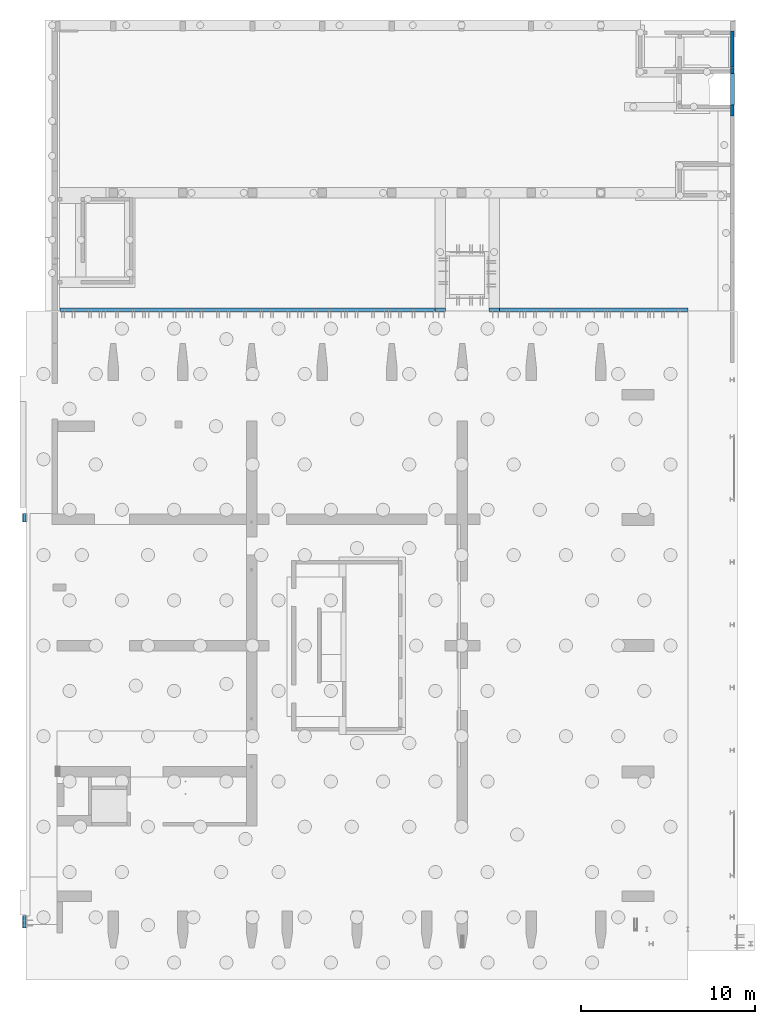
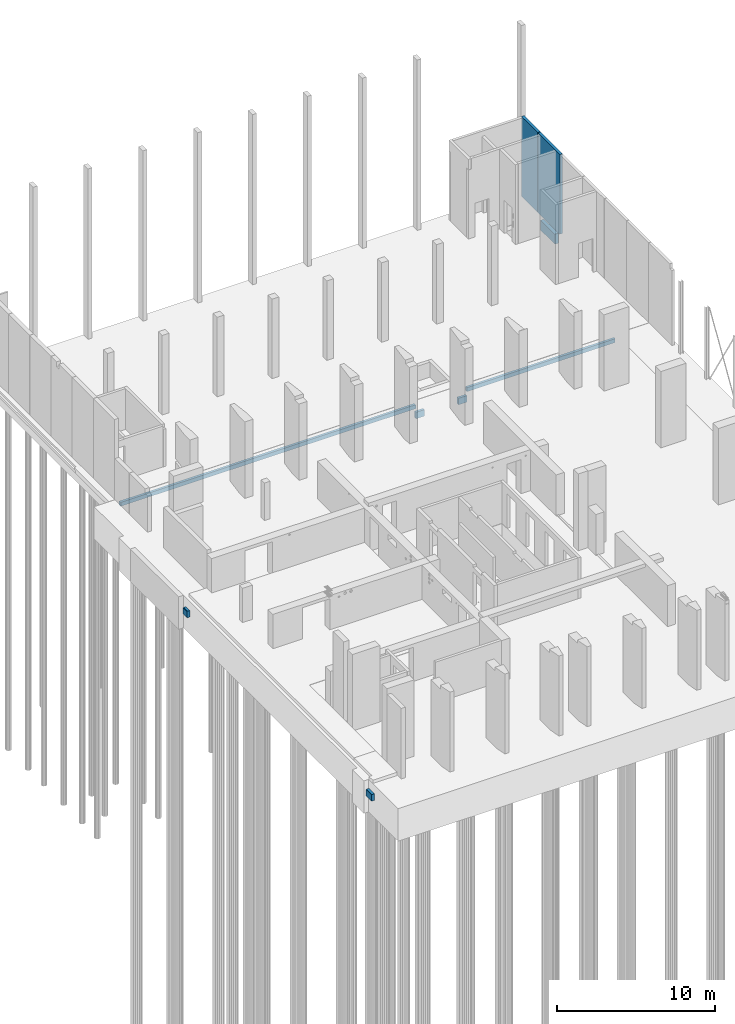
# One storey, part 21 of 26: 9 walls.
"""IFC2X3 building model written with IfcOpenShell, lengths in millimetres."""

from ifc_helpers import new_model, entity, si_unit, converted_unit, derived_unit, direction, frame, frame_2d, origin, place, context, subcontext, project, spatial, rectangle, extrude, faceted_brep, material, layer, layer_set, layer_usage, type_object, element, save


model = new_model("IFC2X3")

# Units and contexts
model_context = context("Model", 3, precision=0.01, world=origin(), true_north=direction((6.12303176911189e-17, 1.0)))
body_context = subcontext(model_context, "Body", "Model", "MODEL_VIEW")
ifc_project = project(units=[si_unit("LENGTHUNIT", "METRE", prefix="MILLI"), si_unit("AREAUNIT", "SQUARE_METRE"), si_unit("VOLUMEUNIT", "CUBIC_METRE"), converted_unit("PLANEANGLEUNIT", "DEGREE", entity("IfcRatioMeasure", 0.0174532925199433), si_unit("PLANEANGLEUNIT", "RADIAN"), dimensions=[0, 0, 0, 0, 0, 0, 0]), si_unit("MASSUNIT", "GRAM", prefix="KILO"), derived_unit("MASSDENSITYUNIT", [(si_unit("MASSUNIT", "GRAM", prefix="KILO"), 1), (si_unit("LENGTHUNIT", "METRE"), -3)]), si_unit("TIMEUNIT", "SECOND"), si_unit("FREQUENCYUNIT", "HERTZ"), si_unit("THERMODYNAMICTEMPERATUREUNIT", "DEGREE_CELSIUS"), derived_unit("THERMALTRANSMITTANCEUNIT", [(si_unit("MASSUNIT", "GRAM", prefix="KILO"), 1), (si_unit("THERMODYNAMICTEMPERATUREUNIT", "KELVIN"), -1), (si_unit("TIMEUNIT", "SECOND"), -3)]), derived_unit("VOLUMETRICFLOWRATEUNIT", [(si_unit("LENGTHUNIT", "METRE"), 3), (si_unit("TIMEUNIT", "SECOND"), -1)]), si_unit("ELECTRICCURRENTUNIT", "AMPERE"), si_unit("ELECTRICVOLTAGEUNIT", "VOLT"), si_unit("POWERUNIT", "WATT"), si_unit("FORCEUNIT", "NEWTON", prefix="KILO"), si_unit("ILLUMINANCEUNIT", "LUX"), si_unit("LUMINOUSFLUXUNIT", "LUMEN"), si_unit("LUMINOUSINTENSITYUNIT", "CANDELA"), derived_unit("USERDEFINED", [(si_unit("MASSUNIT", "GRAM", prefix="KILO"), -1), (si_unit("LENGTHUNIT", "METRE"), -2), (si_unit("TIMEUNIT", "SECOND"), 3), (si_unit("LUMINOUSFLUXUNIT", "LUMEN"), 1)]), derived_unit("LINEARVELOCITYUNIT", [(si_unit("LENGTHUNIT", "METRE"), 1), (si_unit("TIMEUNIT", "SECOND"), -1)]), si_unit("PRESSUREUNIT", "PASCAL"), derived_unit("USERDEFINED", [(si_unit("LENGTHUNIT", "METRE"), -2), (si_unit("MASSUNIT", "GRAM", prefix="KILO"), 1), (si_unit("TIMEUNIT", "SECOND"), -2)])], contexts=[model_context])

# Site, building, storey
site_placement = place(None, origin())
site = spatial("IfcSite", under=ifc_project, at=site_placement, Name="Default", CompositionType="ELEMENT")
building_placement = place(site_placement, origin())
building = spatial("IfcBuilding", under=site, at=building_placement, Name="niet gebruiken", CompositionType="ELEMENT")
storey_placement = place(building_placement, origin())
storey = spatial("IfcBuildingStorey", under=building, at=storey_placement, Name="00 begane grond", CompositionType="ELEMENT", Elevation=0.0)

# Walls
ifc_material_1 = material(Name="NLRS_f2_beton prefab")
ifc_layer_1 = layer(ifc_material_1, 200.0)
ifc_layer_set_1 = layer_set([ifc_layer_1], Name="Basic Wall:NLRS_21.21_WA_beton prefab d=200_gen")
ifc_layer_usage_1 = layer_usage(ifc_layer_set_1, "AXIS2", "NEGATIVE", 100.0)
wall_type_1 = type_object("IfcWallType", Name="Basic Wall:NLRS_21.21_WA_beton prefab d=200_gen", PredefinedType="STANDARD", material=ifc_layer_set_1)
wall_1_placement = place(storey_placement, frame((163290.0, 47920.0, -220.0), z_axis=(0.0, 0.0, 1.0), x_axis=(0.0, 1.0, 0.0)))
element("IfcWallStandardCase", 1, at=wall_1_placement, inside=storey, type_object=wall_type_1, material=ifc_layer_usage_1, Name="Basic Wall:NLRS_21.21_WA_beton prefab d=200_gen", ObjectType="Basic Wall:NLRS_21.21_WA_beton prefab d=200_gen", context=body_context, shape_type="SweptSolid", body=[
    extrude(rectangle(XDim=2780.0, YDim=200.000000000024, at=frame_2d((1390.0, 0.0), x_axis=(-1.0, 0.0))), origin(), (0.0, 0.0, 1.0), 6150.0),
])
ifc_layer_usage_2 = layer_usage(ifc_layer_set_1, "AXIS2", "NEGATIVE", 100.0)
wall_2_placement = place(storey_placement, frame((163290.0, 50720.0, -220.0), z_axis=(0.0, 0.0, 1.0), x_axis=(0.0, 1.0, 0.0)))
element("IfcWallStandardCase", 2, at=wall_2_placement, inside=storey, type_object=wall_type_1, material=ifc_layer_usage_2, Name="Basic Wall:NLRS_21.21_WA_beton prefab d=200_gen", ObjectType="Basic Wall:NLRS_21.21_WA_beton prefab d=200_gen", context=body_context, shape_type="SweptSolid", body=[
    extrude(rectangle(XDim=2060.00000000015, YDim=200.000000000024, at=frame_2d((1030.00000000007, 0.0), x_axis=(-1.0, 0.0))), origin(), (0.0, 0.0, 1.0), 6150.0),
])
ifc_material_2 = material(Name="NLRS_f2_beton ihwg")
ifc_layer_2 = layer(ifc_material_2, 250.0)
ifc_layer_set_2 = layer_set([ifc_layer_2], Name="Basic Wall:NLRS_16.21_WA_beton ihwg d=250_gen")
ifc_layer_usage_3 = layer_usage(ifc_layer_set_2, "AXIS2", "NEGATIVE", 125.0)
wall_type_2 = type_object("IfcWallType", Name="Basic Wall:NLRS_16.21_WA_beton ihwg d=250_gen", PredefinedType="STANDARD", material=ifc_layer_set_2)
wall_3_placement = place(storey_placement, frame((163315.0, 48550.0, -1366.0), z_axis=(0.0, 0.0, 1.0), x_axis=(0.0, 1.0, 0.0)))
element("IfcWallStandardCase", 3, at=wall_3_placement, inside=storey, type_object=wall_type_2, material=ifc_layer_usage_3, Name="Basic Wall:NLRS_16.21_WA_beton ihwg d=250_gen", ObjectType="Basic Wall:NLRS_16.21_WA_beton ihwg d=250_gen", context=body_context, shape_type="SweptSolid", body=[
    extrude(rectangle(XDim=1799.99999999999, YDim=249.999999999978, at=frame_2d((899.999999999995, 0.0), x_axis=(-1.0, 0.0))), origin(), (0.0, 0.0, 1.0), 766.0),
])
wall_type_3 = type_object("IfcWallType", Name="NLRS_16.12_SF_WPB_oplegnok ihwg beton_gen:200x300", PredefinedType="NOTDEFINED", material=ifc_material_2)
wall_4_placement = place(storey_placement, frame((124695.0, 36700.0, -905.0)))
element("IfcWall", 4, at=wall_4_placement, inside=storey, type_object=wall_type_3, material=ifc_material_2, Name="NLRS_16.12_SF_WPB_oplegnok ihwg beton_gen:200x300", ObjectType="NLRS_16.12_SF_WPB_oplegnok ihwg beton_gen:200x300", context=body_context, shape_type="Brep", body=[
    faceted_brep([(0.0, 200.0, 0.0), (0.0, 0.0, 0.0), (0.0, 0.0, 300.0), (0.0, 180.0, 300.0), (0.0, 200.0, 280.0), (21510.0, 0.0, 300.0), (21510.0, 0.0, 0.0), (21510.0, 200.0, 0.0), (21510.0, 200.0, 280.0), (21510.0, 180.0, 300.0)], [[[0, 1, 2, 3, 4]], [[5, 6, 7, 8, 9]], [[7, 0, 4, 8]], [[2, 1, 6, 5]], [[1, 0, 7, 6]], [[2, 5, 9, 3]], [[4, 3, 9, 8]]]),
])
wall_5_placement = place(storey_placement, frame((149945.0, 36700.0, -905.0)))
element("IfcWall", 5, at=wall_5_placement, inside=storey, type_object=wall_type_3, material=ifc_material_2, Name="NLRS_16.12_SF_WPB_oplegnok ihwg beton_gen:200x300", ObjectType="NLRS_16.12_SF_WPB_oplegnok ihwg beton_gen:200x300", context=body_context, shape_type="Brep", body=[
    faceted_brep([(0.0, 200.0, 0.0), (0.0, 0.0, 0.0), (0.0, 0.0, 300.0), (0.0, 180.0, 300.0), (0.0, 200.0, 280.0), (10805.0, 0.0, 300.0), (10805.0, 0.0, 284.987021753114), (10805.0, 0.0, 44.9870861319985), (10805.0, 0.0, 0.0), (10805.0, 200.0, 0.0), (10805.0, 200.0, 280.0), (10805.0, 180.0, 300.0)], [[[0, 1, 2, 3, 4]], [[5, 6, 7, 8, 9, 10, 11]], [[9, 0, 4, 10]], [[2, 1, 8, 7, 6, 5]], [[1, 0, 9, 8]], [[2, 5, 11, 3]], [[4, 3, 11, 10]]]),
])
wall_type_4 = type_object("IfcWallType", Name="NLRS_16.12_SF_WPB_oplegnok ihwg beton_gen:200x500", PredefinedType="NOTDEFINED", material=ifc_material_2)
for number, where, name in (
    (6, (146225.0, 36700.0, -1705.0), "NLRS_16.12_SF_WPB_oplegnok ihwg beton_gen:200x500"),
    (7, (149325.0, 36700.0, -1705.0), "NLRS_16.12_SF_WPB_oplegnok ihwg beton_gen:200x500"),
):
    element("IfcWall", number, at=place(storey_placement, frame(where)), inside=storey, type_object=wall_type_4, material=ifc_material_2, Name=name, ObjectType="NLRS_16.12_SF_WPB_oplegnok ihwg beton_gen:200x500", context=body_context, shape_type="Brep", body=[
        faceted_brep([(0.0, 200.0, 0.0), (0.0, 0.0, 0.0), (0.0, 0.0, 500.0), (0.0, 180.0, 500.0), (0.0, 200.0, 480.0), (600.0, 0.0, 500.0), (600.0, 0.0, 0.0), (600.0, 200.0, 0.0), (600.0, 200.0, 480.0), (600.0, 180.0, 500.0)], [[[0, 1, 2, 3, 4]], [[5, 6, 7, 8, 9]], [[7, 0, 4, 8]], [[2, 1, 6, 5]], [[1, 0, 7, 6]], [[2, 5, 9, 3]], [[4, 3, 9, 8]]]),
    ])
wall_6_placement = place(storey_placement, frame((122550.0, 1300.0, -1420.0), z_axis=(0.0, 0.0, 1.0), x_axis=(0.0, 1.0, 0.0)))
element("IfcWall", 8, at=wall_6_placement, inside=storey, type_object=wall_type_4, material=ifc_material_2, Name="NLRS_16.12_SF_WPB_oplegnok ihwg beton_gen:200x500", ObjectType="NLRS_16.12_SF_WPB_oplegnok ihwg beton_gen:200x500", context=body_context, shape_type="Brep", body=[
    faceted_brep([(700.0, -200.0, 500.0), (700.0, -200.0, 0.0), (700.0, 0.0, 0.0), (700.0, 0.0, 480.0), (700.0, -20.0, 500.0), (0.0, 0.0, 0.0), (0.0, -200.0, 0.0), (0.0, -200.0, 15.0129782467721), (0.0, -200.0, 205.012913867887), (0.0, -200.0, 280.012978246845), (0.0, -200.0, 470.01291386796), (0.0, -200.0, 500.0), (0.0, -20.0, 500.0), (0.0, 0.0, 480.0)], [[[0, 1, 2, 3, 4]], [[5, 6, 7, 8, 9, 10, 11, 12, 13]], [[1, 0, 11, 10, 9, 8, 7, 6]], [[2, 5, 13, 3]], [[11, 0, 4, 12]], [[2, 1, 6, 5]], [[4, 3, 13, 12]]]),
])
wall_7_placement = place(storey_placement, frame((122550.0, 24601.0, -1420.0), z_axis=(0.0, 0.0, 1.0), x_axis=(0.0, 1.0, 0.0)))
element("IfcWall", 9, at=wall_7_placement, inside=storey, type_object=wall_type_4, material=ifc_material_2, Name="NLRS_16.12_SF_WPB_oplegnok ihwg beton_gen:200x500", ObjectType="NLRS_16.12_SF_WPB_oplegnok ihwg beton_gen:200x500", context=body_context, shape_type="Brep", body=[
    faceted_brep([(500.0, -200.0, 500.0), (500.0, -200.0, 0.0), (500.0, 0.0, 0.0), (500.0, 0.0, 480.0), (500.0, -20.0, 500.0), (0.0, 0.0, 0.0), (0.0, -200.0, 0.0), (0.0, -200.0, 15.0129782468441), (0.0, -200.0, 205.01291386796), (0.0, -200.0, 295.012978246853), (0.0, -200.0, 485.012913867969), (0.0, -200.0, 500.0), (0.0, -20.0, 500.0), (0.0, 0.0, 480.0)], [[[0, 1, 2, 3, 4]], [[5, 6, 7, 8, 9, 10, 11, 12, 13]], [[1, 0, 11, 10, 9, 8, 7, 6]], [[2, 5, 13, 3]], [[11, 0, 4, 12]], [[2, 1, 6, 5]], [[4, 3, 13, 12]]]),
])

save(model, "model.ifc")
